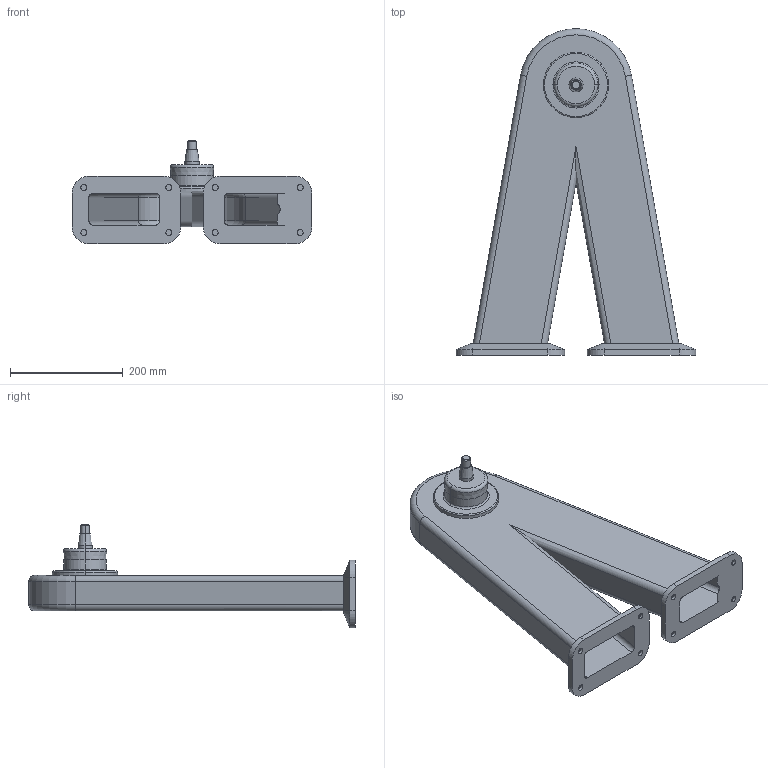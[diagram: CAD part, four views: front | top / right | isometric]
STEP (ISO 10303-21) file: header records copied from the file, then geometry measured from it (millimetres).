
FILE_DESCRIPTION (( 'STEP AP214' ), '1' );
FILE_NAME ('WP850_H480.STEP', '2014-09-08T12:56:43', ( '' ), ( '' ), 'SwSTEP 2.0', 'SolidWorks 2014', '' );
FILE_SCHEMA (( 'AUTOMOTIVE_DESIGN' ));
Length unit declared in the file: millimetre
Products named in the file (1): WP850_H480
Bounding box: 426.3 x 580 x 183.98 mm (x, y, z)
Volume: 1797031.8 mm3; surface area: 809133.8 mm2
Topology: 1 solids, 1 shells, 152 faces, 347 edges, 218 vertices
Faces by surface type: cylinder 76, plane 52, cone 14, torus 10
Entity records: 4347 total; most frequent: DIRECTION 791, CARTESIAN_POINT 778, ORIENTED_EDGE 694, EDGE_CURVE 347, AXIS2_PLACEMENT_3D 311, VERTEX_POINT 218, EDGE_LOOP 185, VECTOR 169
